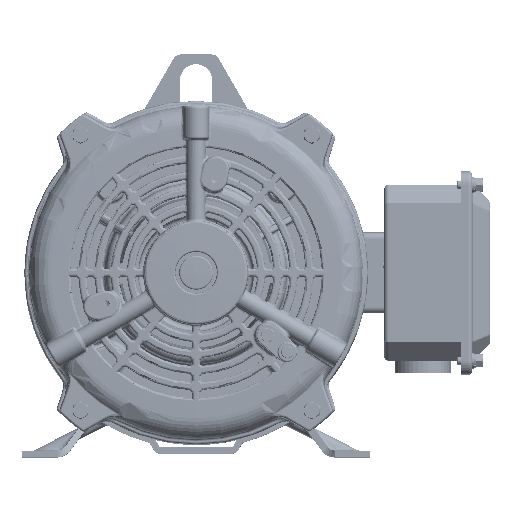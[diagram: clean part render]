
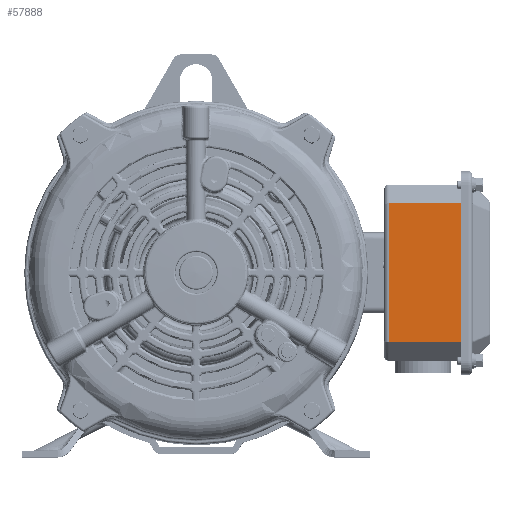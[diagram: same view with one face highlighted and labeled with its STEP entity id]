
A CAD part, top view. The second image highlights one B-rep face of the part: STEP entity #57888.
In plain terms, the highlighted planar face has unit normal (0, 0, 1).
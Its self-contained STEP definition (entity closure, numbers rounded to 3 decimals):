
#20667 = CARTESIAN_POINT ( 'NONE',  ( 167.3, 0., 5. ) ) ;
#29738 = VECTOR ( 'NONE', #84259, 1000. ) ;
#34470 = EDGE_LOOP ( 'NONE', ( #152918, #177337, #108873, #106126 ) ) ;
#36337 = DIRECTION ( 'NONE',  ( -1., 0., 0. ) ) ;
#36525 = EDGE_CURVE ( 'NONE', #166458, #107577, #142381, .T. ) ;
#42577 = DIRECTION ( 'NONE',  ( 0., 0., -1. ) ) ;
#52388 = VERTEX_POINT ( 'NONE', #118451 ) ;
#57888 = ADVANCED_FACE ( 'NONE', ( #162150 ), #182372, .F. ) ;
#67983 = VECTOR ( 'NONE', #122174, 1000. ) ;
#69908 = DIRECTION ( 'NONE',  ( -1., 0., 0. ) ) ;
#74657 = CARTESIAN_POINT ( 'NONE',  ( 164.5, -43., 5. ) ) ;
#78714 = DIRECTION ( 'NONE',  ( 0., 1., 0. ) ) ;
#80837 = VERTEX_POINT ( 'NONE', #184848 ) ;
#84259 = DIRECTION ( 'NONE',  ( 0., -1., 0. ) ) ;
#87054 = EDGE_CURVE ( 'NONE', #80837, #52388, #169969, .T. ) ;
#106126 = ORIENTED_EDGE ( 'NONE', *, *, #36525, .F. ) ;
#107577 = VERTEX_POINT ( 'NONE', #188194 ) ;
#108873 = ORIENTED_EDGE ( 'NONE', *, *, #202769, .F. ) ;
#118451 = CARTESIAN_POINT ( 'NONE',  ( 119.5, -43., 5. ) ) ;
#119241 = CARTESIAN_POINT ( 'NONE',  ( 119.5, -43., 5. ) ) ;
#122174 = DIRECTION ( 'NONE',  ( 0., -1., 0. ) ) ;
#128314 = CARTESIAN_POINT ( 'NONE',  ( 164.5, -43., 5. ) ) ;
#142381 = LINE ( 'NONE', #20667, #67983 ) ;
#147610 = EDGE_CURVE ( 'NONE', #166458, #80837, #191656, .T. ) ;
#152918 = ORIENTED_EDGE ( 'NONE', *, *, #147610, .T. ) ;
#155871 = LINE ( 'NONE', #74657, #210732 ) ;
#162150 = FACE_OUTER_BOUND ( 'NONE', #34470, .T. ) ;
#166458 = VERTEX_POINT ( 'NONE', #221736 ) ;
#169969 = LINE ( 'NONE', #119241, #29738 ) ;
#177337 = ORIENTED_EDGE ( 'NONE', *, *, #87054, .T. ) ;
#178413 = AXIS2_PLACEMENT_3D ( 'NONE', #128314, #42577, #78714 ) ;
#182372 = PLANE ( 'NONE',  #178413 ) ;
#184848 = CARTESIAN_POINT ( 'NONE',  ( 119.5, 43., 5. ) ) ;
#188194 = CARTESIAN_POINT ( 'NONE',  ( 167.3, -43., 5. ) ) ;
#191656 = LINE ( 'NONE', #192741, #210289 ) ;
#192741 = CARTESIAN_POINT ( 'NONE',  ( 164.5, 43., 5. ) ) ;
#202769 = EDGE_CURVE ( 'NONE', #107577, #52388, #155871, .T. ) ;
#210289 = VECTOR ( 'NONE', #69908, 1000. ) ;
#210732 = VECTOR ( 'NONE', #36337, 1000. ) ;
#221736 = CARTESIAN_POINT ( 'NONE',  ( 167.3, 43., 5. ) ) ;
